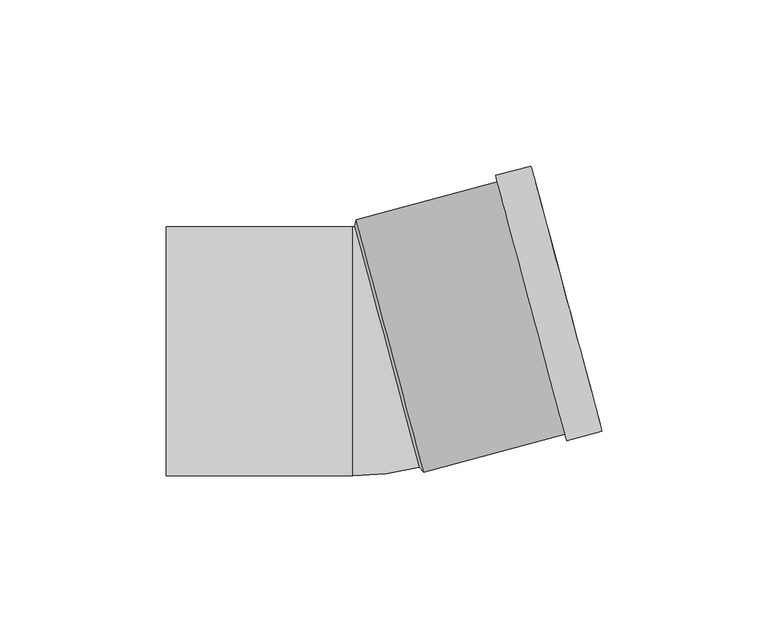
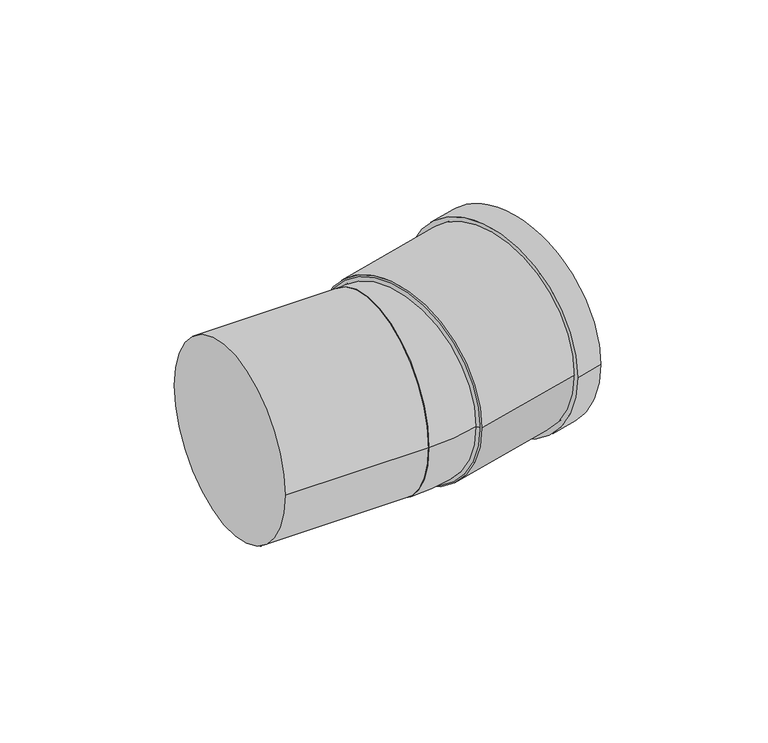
"""IFC4 building model written with IfcOpenShell, lengths in millimetres: pipe fitting geometry, Superdrain HT bend : Superdrain HT Bend."""

import ifcopenshell
import ifcopenshell.guid

model = None  # the IFC model being written
_history = None  # IfcOwnerHistory: only IFC2X3 demands one
_inside = {}  # id of a spatial element -> (the spatial element, [elements in it])
_under = {}  # id of a project, library or spatial element -> (it, [spatial elements below it])
_declared = {}  # id of a project -> (the project, [libraries it declares])
_typed = {}  # id of a type object -> (the type object, [elements of that type])
_made_of = {}  # id of a material, layer set ... -> (it, [elements and type objects made of it])


def new_model(schema):
    """Start an empty IFC model of exactly this schema.

    Asked for "IFC4X3", IfcOpenShell would pick the latest addendum, in which some entities
    have other attributes; the version numbers below select the first issue.
    IFC2X3 requires an IfcOwnerHistory on every rooted entity: one is made here for all.
    """
    global model, _history
    if schema == "IFC4X3":
        model = ifcopenshell.file(schema_version=(4, 3, 0, 0))
    else:
        model = ifcopenshell.file(schema=schema)
    _inside.clear()
    _under.clear()
    _declared.clear()
    _typed.clear()
    _made_of.clear()
    _history = None
    if model.schema == "IFC2X3":
        org = make("IfcOrganization", Name="unknown")
        user = make(
            "IfcPersonAndOrganization",
            ThePerson=make("IfcPerson", FamilyName="unknown"),
            TheOrganization=org,
        )
        app = make(
            "IfcApplication",
            ApplicationDeveloper=org,
            Version="unknown",
            ApplicationFullName="unknown",
            ApplicationIdentifier="unknown",
        )
        _history = make(
            "IfcOwnerHistory",
            OwningUser=user,
            OwningApplication=app,
            ChangeAction="ADDED",
            CreationDate=0,
        )
    return model


def make(cls, **values):
    """One entity of the class cls with the attributes given. An attribute that is None is left unset."""
    return model.create_entity(
        cls, **{name: value for name, value in values.items() if value is not None}
    )


def rooted(cls, **values):
    """An entity with a GlobalId (a new one), such as an element, a storey or a relation."""
    return make(cls, GlobalId=ifcopenshell.guid.new(), OwnerHistory=_history, **values)


def si_unit(unit_type, name, prefix=None):
    """IfcSIUnit, for example si_unit("LENGTHUNIT", "METRE", prefix="MILLI")."""
    return make("IfcSIUnit", UnitType=unit_type, Prefix=prefix, Name=name)


def assignment(units):
    """IfcUnitAssignment: the units of a project."""
    return None if units is None else make("IfcUnitAssignment", Units=units)


def point(xyz):
    """IfcCartesianPoint."""
    return None if xyz is None else make("IfcCartesianPoint", Coordinates=xyz)


def direction(xyz):
    """IfcDirection."""
    return None if xyz is None else make("IfcDirection", DirectionRatios=xyz)


def frame(location, z_axis=None, x_axis=None):
    """IfcAxis2Placement3D, a coordinate frame: its origin and axes. An axis left out is left unset."""
    return make(
        "IfcAxis2Placement3D",
        Location=point(location),
        Axis=direction(z_axis),
        RefDirection=direction(x_axis),
    )


def frame_2d(location, x_axis=None):
    """IfcAxis2Placement2D, a coordinate frame in the plane: its origin and x axis."""
    return make(
        "IfcAxis2Placement2D", Location=point(location), RefDirection=direction(x_axis)
    )


def origin():
    """The frame at (0, 0, 0) with its axes left unset."""
    return frame((0.0, 0.0, 0.0))


def origin_2d():
    """The frame at (0, 0) in the plane with its x axis left unset."""
    return frame_2d((0.0, 0.0))


def place(relative_to, where):
    """IfcLocalPlacement: puts the frame where relative to a parent placement (None: the world)."""
    return make(
        "IfcLocalPlacement", PlacementRelTo=relative_to, RelativePlacement=where
    )


def context(
    kind, dimensions, precision=None, world=None, true_north=None, identifier=None
):
    """IfcGeometricRepresentationContext, for example the 3D "Model" context."""
    return make(
        "IfcGeometricRepresentationContext",
        ContextIdentifier=identifier,
        ContextType=kind,
        CoordinateSpaceDimension=dimensions,
        Precision=precision,
        WorldCoordinateSystem=world,
        TrueNorth=true_north,
    )


def project(units=None, contexts=None):
    """IfcProject with its units and contexts."""
    return rooted(
        "IfcProject",
        Name="project",
        RepresentationContexts=contexts,
        UnitsInContext=assignment(units),
    )


def spatial(cls, under=None, at=None, **own):
    """A site, building, storey or space (cls), placed at a placement, below another one or the project."""
    s = rooted(cls, ObjectPlacement=at, **own)
    if under is not None:
        _under.setdefault(under.id(), (under, []))[1].append(s)
    return s


def polyline(points):
    """IfcPolyline through the points."""
    return make("IfcPolyline", Points=[point(p) for p in points])


def circle_curve(where, radius):
    """IfcCircle in the frame where."""
    return make("IfcCircle", Position=where, Radius=radius)


def ellipse_curve(where, semi_axis1, semi_axis2):
    """IfcEllipse in the frame where."""
    return make(
        "IfcEllipse", Position=where, SemiAxis1=semi_axis1, SemiAxis2=semi_axis2
    )


def trimmed(basis, trim1, trim2, sense, master):
    """IfcTrimmedCurve: the piece of a basis curve between two trims."""
    return make(
        "IfcTrimmedCurve",
        BasisCurve=basis,
        Trim1=trim1,
        Trim2=trim2,
        SenseAgreement=sense,
        MasterRepresentation=master,
    )


def segment(curve, same_sense, transition):
    """IfcCompositeCurveSegment."""
    return make(
        "IfcCompositeCurveSegment",
        Transition=transition,
        SameSense=same_sense,
        ParentCurve=curve,
    )


def composite_curve(segments, self_intersect=None):
    """IfcCompositeCurve: segments joined end to end."""
    return make("IfcCompositeCurve", Segments=segments, SelfIntersect=self_intersect)


def outline(outer, holes=None, kind="AREA"):
    """IfcArbitraryClosedProfileDef: a profile drawn as a closed curve; with holes, ...WithVoids."""
    if holes is None:
        return make("IfcArbitraryClosedProfileDef", ProfileType=kind, OuterCurve=outer)
    return make(
        "IfcArbitraryProfileDefWithVoids",
        ProfileType=kind,
        OuterCurve=outer,
        InnerCurves=holes,
    )


def extrude(swept, where, along, depth):
    """IfcExtrudedAreaSolid: the profile swept, set in the frame where, extruded along a direction by depth."""
    return make(
        "IfcExtrudedAreaSolid",
        SweptArea=swept,
        Position=where,
        ExtrudedDirection=direction(along),
        Depth=depth,
    )


def shape(context_of_items, identifier, shape_type, items):
    """IfcShapeRepresentation: the items that make up one representation, for example the "Body"."""
    return make(
        "IfcShapeRepresentation",
        ContextOfItems=context_of_items,
        RepresentationIdentifier=identifier,
        RepresentationType=shape_type,
        Items=items,
    )


def source(mapping_origin, context_of_items, identifier, shape_type, items):
    """IfcRepresentationMap: a shape defined once, which mapped items show again and again."""
    return make(
        "IfcRepresentationMap",
        MappingOrigin=mapping_origin,
        MappedRepresentation=shape(context_of_items, identifier, shape_type, items),
    )


def transform(
    local_origin,
    x_axis=None,
    y_axis=None,
    z_axis=None,
    scale=None,
    scale2=None,
    scale3=None,
    uniform=True,
):
    """IfcCartesianTransformationOperator3D, or its non-uniform kind. x_axis, y_axis, z_axis: its Axis1, 2, 3."""
    if uniform:
        return make(
            "IfcCartesianTransformationOperator3D",
            Axis1=direction(x_axis),
            Axis2=direction(y_axis),
            LocalOrigin=point(local_origin),
            Scale=scale,
            Axis3=direction(z_axis),
        )
    return make(
        "IfcCartesianTransformationOperator3DnonUniform",
        Axis1=direction(x_axis),
        Axis2=direction(y_axis),
        LocalOrigin=point(local_origin),
        Scale=scale,
        Axis3=direction(z_axis),
        Scale2=scale2,
        Scale3=scale3,
    )


def mapped(mapping_source, mapping_target):
    """IfcMappedItem: shows the shape of a source again, moved by a transform."""
    return make(
        "IfcMappedItem", MappingSource=mapping_source, MappingTarget=mapping_target
    )


def made_of(thing, what):
    """Note that an element or type object is made of a material, layer set ...; save() writes the relation."""
    if what is not None:
        _made_of.setdefault(what.id(), (what, []))[1].append(thing)
    return thing


def element(
    cls,
    number,
    at=None,
    inside=None,
    cuts=None,
    type_object=None,
    material=None,
    context=None,
    identifier="Body",
    shape_type=None,
    held_by="IfcProductDefinitionShape",
    body=None,
    shapes=None,
    **own,
):
    """One element of the class cls, such as IfcWall. Its Tag is "e" and its number.

    at: its placement. inside: the storey or other place that contains it. cuts: it is an
    opening in that element (IfcRelVoidsElement). A single representation is given by context,
    identifier, shape_type and body (its items); several are given by shapes. held_by: the class
    of the entity that holds the representations. save() writes the other relations.
    """
    e = rooted(cls, Tag="e%d" % number, ObjectPlacement=at, **own)
    if body is not None:
        shapes = [shape(context, identifier, shape_type, body)]
    if shapes is not None:
        e.Representation = make(held_by, Representations=shapes)
    if inside is not None:
        _inside.setdefault(inside.id(), (inside, []))[1].append(e)
    if cuts is not None:
        rooted(
            "IfcRelVoidsElement", RelatingBuildingElement=cuts, RelatedOpeningElement=e
        )
    if type_object is not None:
        _typed.setdefault(type_object.id(), (type_object, []))[1].append(e)
    return made_of(e, material)


def aggregate(whole, parts):
    """IfcRelAggregates: a whole, such as a stair, and the parts it consists of."""
    return rooted("IfcRelAggregates", RelatingObject=whole, RelatedObjects=parts)


def save(model, path):
    """Write the relations noted so far, then the file.

    IfcRelAggregates (storeys below a building ...), IfcRelContainedInSpatialStructure (elements
    in a storey), IfcRelDefinesByType, IfcRelAssociatesMaterial and IfcRelDeclares: one each for
    every whole, place, type object, material and project.
    """
    for whole, parts in _under.values():
        aggregate(whole, parts)
    for where, things in _inside.values():
        rooted(
            "IfcRelContainedInSpatialStructure",
            RelatedElements=things,
            RelatingStructure=where,
        )
    for kind, things in _typed.values():
        rooted("IfcRelDefinesByType", RelatedObjects=things, RelatingType=kind)
    for what, things in _made_of.values():
        rooted("IfcRelAssociatesMaterial", RelatedObjects=things, RelatingMaterial=what)
    for by, libraries in _declared.values():
        rooted("IfcRelDeclares", RelatingContext=by, RelatedDefinitions=libraries)
    model.write(path)


def plane_surface(at):
    """IfcPlane: the flat surface through the origin of the frame at, square to its z axis."""
    return make("IfcPlane", Position=at)


def revolved_surface(curve, axis_point, axis_direction):
    """IfcSurfaceOfRevolution: the curve turned about the line through axis_point along axis_direction."""
    return make(
        "IfcSurfaceOfRevolution",
        SweptCurve=make("IfcArbitraryOpenProfileDef", ProfileType="CURVE", Curve=curve),
        AxisPosition=make("IfcAxis1Placement", Location=point(axis_point), Axis=direction(axis_direction)),
    )


def advanced_brep(points, edges, surfaces, faces):
    """IfcAdvancedBrep: a solid bounded by faces that lie on surfaces and meet in shared edges.

    An edge is (start, end): straight between two places in points (the first is 0);
    or (start, end, curve); or (start, end, curve, False) where it runs against its curve.
    A face is (place in surfaces, loops), or (place, loops, False) where it looks against
    its surface's normal. A loop lists edges by number (the first is 1), with a minus sign
    where the edge is run from its end to its start. The first loop is the outer one.
    """
    corners = [point(p) for p in points]
    vertices = [make("IfcVertexPoint", VertexGeometry=c) for c in corners]
    made = []
    for start, end, *more in edges:
        made.append(
            make(
                "IfcEdgeCurve",
                EdgeStart=vertices[start],
                EdgeEnd=vertices[end],
                EdgeGeometry=more[0] if more else make("IfcPolyline", Points=[corners[start], corners[end]]),
                SameSense=more[1] if len(more) > 1 else True,
            )
        )
    hull = []
    for where, loops, *sense in faces:
        bounds = []
        for j, loop in enumerate(loops):
            ring = [make("IfcOrientedEdge", EdgeElement=made[abs(k) - 1], Orientation=k > 0) for k in loop]
            bounds.append(
                make(
                    "IfcFaceOuterBound" if j == 0 else "IfcFaceBound",
                    Bound=make("IfcEdgeLoop", EdgeList=ring),
                    Orientation=True,
                )
            )
        hull.append(make("IfcAdvancedFace", Bounds=bounds, FaceSurface=surfaces[where], SameSense=sense[0] if sense else True))
    return make("IfcAdvancedBrep", Outer=make("IfcClosedShell", CfsFaces=hull))


def pipe_fitting_f4b4b27d(model_context):
    return source(origin(), model_context, "Body", "SolidModel", [
        advanced_brep(
        [(14.7285285, -34.8763595, 0.0), (-4.6828999, 37.5680775, 0.0), (-5.2, -37.5, 0.0), (-5.2, 37.5, 0.0)],
        [
            (0, 1, circle_curve(frame((5.0228143, 1.345859, 0.0), z_axis=(0.965925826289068, 0.25881904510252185, 0.0), x_axis=(-0.25881904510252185, 0.965925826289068, 0.0)), 37.5)),
            (1, 0, circle_curve(frame((5.0228143, 1.345859, 0.0), z_axis=(0.9659258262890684, 0.2588190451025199, 0.0), x_axis=(-0.2588190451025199, 0.9659258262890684, 0.0)), 37.5)),
            (2, 3, circle_curve(frame((-5.2, 0.0, 0.0), z_axis=(-1.0, 0.0, 0.0), x_axis=(0.0, 1.0, 0.0)), 37.5)),
            (3, 2, circle_curve(frame((-5.2, 0.0, 0.0), z_axis=(-1.0, 0.0, 0.0), x_axis=(0.0, 1.0, 0.0)), 37.5)),
            (3, 1, circle_curve(frame((-5.2, 39.4979214, 0.0), z_axis=(0.0, 0.0, 1.0), x_axis=(1.0, 0.0, 0.0)), 1.9979214)),
            (0, 2, circle_curve(frame((-5.2, 39.4979214, 0.0), z_axis=(0.0, 0.0, -1.0), x_axis=(1.0, 0.0, 0.0)), 76.9979214)),
        ],
        [
            plane_surface(frame((5.0228143, 1.345859, 0.0), z_axis=(0.965925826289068, 0.25881904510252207, 0.0), x_axis=(0.0, 0.0, -1.0))),
            plane_surface(frame((-5.2, 0.0, 0.0), z_axis=(-1.0, 0.0, 0.0), x_axis=(0.0, 0.0, -1.0))),
            revolved_surface(trimmed(ellipse_curve(frame((34.2979214, 39.4979214, 0.0), z_axis=(0.0, -1.0, 0.0), x_axis=(-1.0, 0.0, 0.0)), 37.5, 37.5), [point((-3.2020786, 39.4979214, 0.0))], [point((71.7979214, 39.4979214, 0.0))], True, "CARTESIAN"), (-5.2, 39.4979214, 0.0), (0.0, 0.0, 1.0)),
            revolved_surface(trimmed(ellipse_curve(frame((34.2979214, 39.4979214, 0.0), z_axis=(0.0, -1.0, 0.0), x_axis=(-1.0, 0.0, 0.0)), 37.5, 37.5), [point((71.7979214, 39.4979214, 0.0))], [point((-3.2020786, 39.4979214, 0.0))], True, "CARTESIAN"), (-5.2, 39.4979214, 0.0), (0.0, 0.0, 1.0)),
        ],
        [
            (0, [[1, 2]]),
            (1, [[3, 4]]),
            (2, [[-4, 5, -1, 6]]),
            (3, [[-3, -6, -2, -5]]),
        ],
    ),
        extrude(outline(composite_curve([segment(trimmed(circle_curve(origin_2d(), 39.375), [point((0.0, 39.375))], [point((0.0, -39.375))], False, "CARTESIAN"), True, "CONTINUOUS"), segment(trimmed(circle_curve(origin_2d(), 39.375), [point((0.0, -39.375))], [point((0.0, 39.375))], False, "CARTESIAN"), True, "CONTINUOUS")], self_intersect=False), holes=[composite_curve([segment(trimmed(circle_curve(origin_2d(), 37.5), [point((0.0, 37.5))], [point((0.0, -37.5))], True, "CARTESIAN"), True, "CONTINUOUS"), segment(trimmed(circle_curve(origin_2d(), 37.5), [point((0.0, -37.5))], [point((0.0, 37.5))], True, "CARTESIAN"), True, "CONTINUOUS")], self_intersect=False)]), frame((5.9887401, 1.6046781, 0.0), z_axis=(0.9659258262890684, 0.2588190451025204, 0.0), x_axis=(0.0, 0.0, 1.0)), (0.0, 0.0, 1.0), 55.0),
        extrude(outline(composite_curve([segment(trimmed(circle_curve(origin_2d(), 41.34375), [point((0.0, -41.3437499))], [point((0.0, 41.34375))], False, "CARTESIAN"), True, "CONTINUOUS"), segment(trimmed(circle_curve(origin_2d(), 41.34375), [point((0.0, 41.34375))], [point((0.0, -41.3437499))], False, "CARTESIAN"), True, "CONTINUOUS")], self_intersect=False), holes=[composite_curve([segment(trimmed(circle_curve(origin_2d(), 37.5), [point((0.0, -37.4999999))], [point((0.0, 37.5))], True, "CARTESIAN"), True, "CONTINUOUS"), segment(trimmed(circle_curve(origin_2d(), 37.5), [point((0.0, 37.5))], [point((0.0, -37.4999999))], True, "CARTESIAN"), True, "CONTINUOUS")], self_intersect=False)]), frame((48.4894765, 12.9927161, 0.0), z_axis=(0.9659258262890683, 0.2588190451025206, 0.0), x_axis=(0.0, 0.0, 1.0)), (0.0, 0.0, 1.0), 11.0),
        advanced_brep(
        [(16.17974, -36.4286513, 0.0), (-4.2022598, 39.6380075, 0.0), (14.7285285, -34.8763595, 0.0), (-4.6828999, 37.5680775, 0.0)],
        [
            (0, 1, circle_curve(frame((5.9887401, 1.6046781, 0.0), z_axis=(0.9659258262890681, 0.25881904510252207, 0.0), x_axis=(0.25881904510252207, -0.9659258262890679, 0.0)), 39.375)),
            (1, 0, circle_curve(frame((5.9887401, 1.6046781, 0.0), z_axis=(0.9659258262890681, 0.25881904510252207, 0.0), x_axis=(-0.2588190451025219, 0.9659258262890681, 0.0)), 39.375)),
            (2, 3, circle_curve(frame((5.0228143, 1.345859, 0.0), z_axis=(-0.9659258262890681, -0.25881904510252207, 0.0), x_axis=(-0.2588190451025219, 0.9659258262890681, 0.0)), 37.5)),
            (3, 2, circle_curve(frame((5.0228143, 1.345859, 0.0), z_axis=(-0.9659258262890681, -0.25881904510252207, 0.0), x_axis=(0.25881904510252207, -0.9659258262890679, 0.0)), 37.5)),
            (3, 1),
            (0, 2),
        ],
        [
            plane_surface(frame((5.9887401, 1.6046781, 0.0), z_axis=(0.9659258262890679, 0.25881904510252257, 0.0), x_axis=(0.0, 0.0, -1.0))),
            plane_surface(frame((5.0228143, 1.345859, 0.0), z_axis=(-0.9659258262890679, -0.25881904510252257, 0.0), x_axis=(0.0, 0.0, -1.0))),
            revolved_surface(polyline([(-4.682899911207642, 37.56807754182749, 0.0), (-4.202259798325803, 39.63800750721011, 0.0)]), (-14.2957022, -3.8305219, 0.0), (0.9659258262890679, 0.258819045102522, 0.0)),
            revolved_surface(polyline([(14.728528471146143, -34.876359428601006, 0.0), (16.179739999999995, -36.4286513, 0.0)]), (-14.2957022, -3.8305219, 0.0), (0.9659258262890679, 0.258819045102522, 0.0)),
        ],
        [
            (0, [[1, 2]]),
            (1, [[3, 4]]),
            (2, [[-4, 5, -1, 6]]),
            (3, [[-3, -6, -2, -5]]),
        ],
    ),
        extrude(outline(composite_curve([segment(trimmed(circle_curve(origin_2d(), 37.5), [point((-37.5, 0.0))], [point((37.5, 0.0))], False, "CARTESIAN"), True, "CONTINUOUS"), segment(trimmed(circle_curve(origin_2d(), 37.5), [point((37.5, 0.0))], [point((-37.5, 0.0))], False, "CARTESIAN"), True, "CONTINUOUS")], self_intersect=False)), frame((-61.5, 0.0, 0.0), z_axis=(1.0, 0.0, 0.0), x_axis=(0.0, 1.0, 0.0)), (0.0, 0.0, 1.0), 56.3),
    ])


if __name__ == "__main__":
    model = new_model("IFC4")
    model_context = context("Model", 3, world=origin())
    ifc_project = project(units=[si_unit("LENGTHUNIT", "METRE", prefix="MILLI")], contexts=[model_context])
    site = spatial("IfcSite", under=ifc_project)
    building = spatial("IfcBuilding", under=site)
    placement = place(None, origin())
    pipe_fitting_shape = pipe_fitting_f4b4b27d(model_context)
    element("IfcPipeFitting", 1, ObjectType="Superdrain HT bend : Superdrain HT Bend", at=placement, inside=building, context=model_context, shape_type="MappedRepresentation", body=[
        mapped(pipe_fitting_shape, transform((0.0, 0.0, 0.0), x_axis=(1.0, 0.0, 0.0), y_axis=(0.0, 1.0, 0.0), z_axis=(0.0, 0.0, 1.0))),
    ])
    save(model, "model.ifc")
